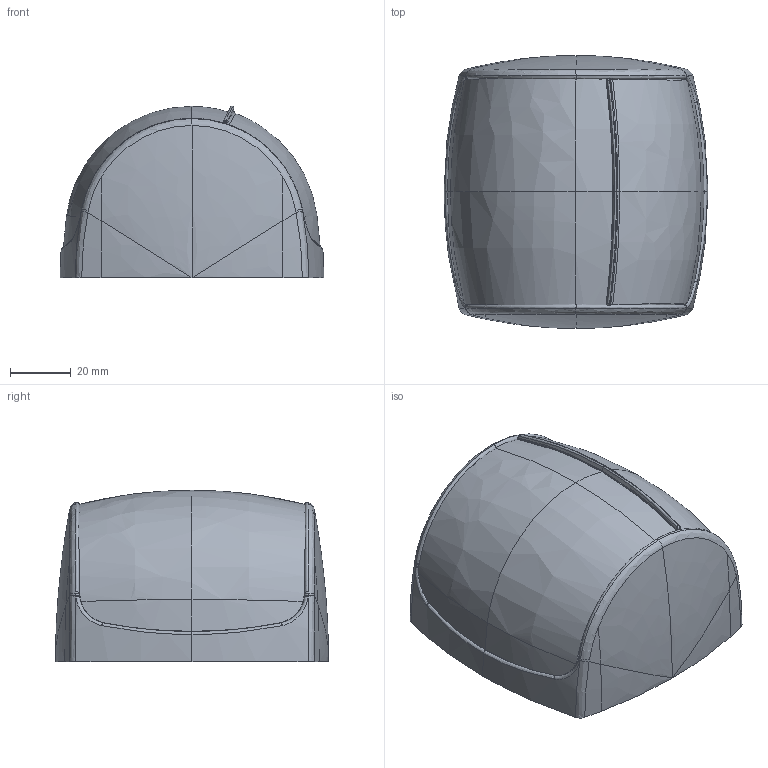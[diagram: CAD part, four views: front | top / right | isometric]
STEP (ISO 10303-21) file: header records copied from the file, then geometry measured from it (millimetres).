
FILE_DESCRIPTION(('CATIA V5 STEP Exchange','CAx-IF Rec.Pracs.--- Model Styling and Organization---1.5--- 2016-08-15','CAx-IF Rec.Pracs.---Supplemental Geometry---1.0---2011-11-01','CAx-IF Rec.Pracs.---Representation and Presentation of Product Manufacturing Information (PMI)---2.3---2014-10-13','CAx-IF Rec.Pracs.--- Composite Materials ---1.1---2010-07-15'),'2;1');
FILE_NAME('E:\tmp\ddx\2545945\017.460-00_PORT LAMP PRO 2NM C-5 BLACK .stp','2025-10-14T01:27:24+00:00',('none'),('none'),'CATIA Version 5-6 Release 2024 SP3 HF10','CATIA V5 STEP AP214 Edition 3 v3','none');
FILE_SCHEMA(('AUTOMOTIVE_DESIGN { 1 0 10303 214 3 1 1 1 }'));
Products named in the file (1): 10003835410_D10_001
Bounding box: 87 x 90 x 56.53 mm (x, y, z)
Volume: 269862.5 mm3; surface area: 59261.4 mm2
Topology: 6 solids, 6 shells, 711 faces, 1838 edges, 1119 vertices
Faces by surface type: bspline 375, plane 171, cylinder 95, cone 36, torus 24, sphere 10
Entity records: 47655 total; most frequent: CARTESIAN_POINT 36281, ORIENTED_EDGE 3630, EDGE_CURVE 1815, B_SPLINE_CURVE_WITH_KNOTS 1207, VERTEX_POINT 1119, EDGE_LOOP 728, ADVANCED_FACE 711, FACE_OUTER_BOUND 711
